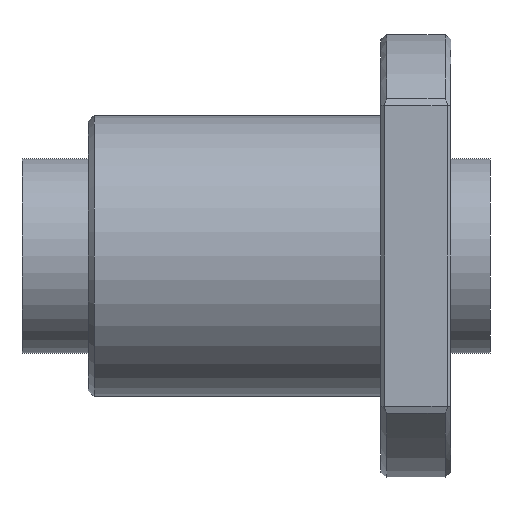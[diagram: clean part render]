
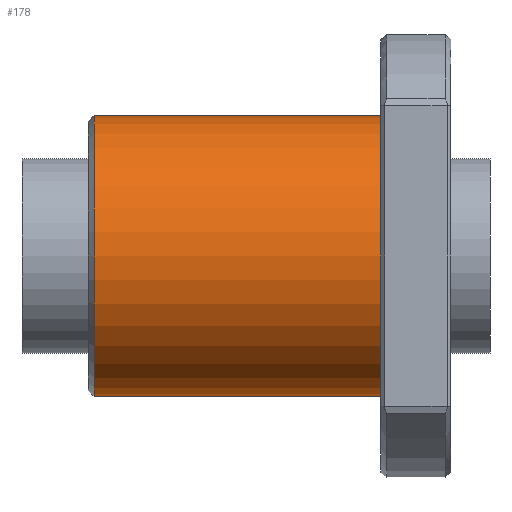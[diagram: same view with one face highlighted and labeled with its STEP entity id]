
A CAD part, left-side view. The second image highlights one B-rep face of the part: STEP entity #178.
In plain terms, the highlighted cylindrical face has radius 36 mm (diameter 72 mm), a full revolution.
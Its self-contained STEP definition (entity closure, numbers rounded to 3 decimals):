
#178=ADVANCED_FACE('',(#256,#257),#224,.T.);
#224=CYLINDRICAL_SURFACE('',#831,36.);
#256=FACE_BOUND('',#340,.T.);
#257=FACE_BOUND('',#341,.T.);
#340=EDGE_LOOP('',(#458));
#341=EDGE_LOOP('',(#459));
#458=ORIENTED_EDGE('',*,*,#697,.T.);
#459=ORIENTED_EDGE('',*,*,#676,.T.);
#605=VERTEX_POINT('',#1171);
#622=VERTEX_POINT('',#1240);
#676=EDGE_CURVE('',#605,#605,#759,.T.);
#697=EDGE_CURVE('',#622,#622,#768,.T.);
#759=CIRCLE('',#814,36.);
#768=CIRCLE('',#830,36.);
#814=AXIS2_PLACEMENT_3D('',#1170,#948,#949);
#830=AXIS2_PLACEMENT_3D('',#1239,#984,#985);
#831=AXIS2_PLACEMENT_3D('',#1241,#986,#987);
#948=DIRECTION('',(0.,1.,0.));
#949=DIRECTION('',(0.,0.,-1.));
#984=DIRECTION('',(0.,-1.,0.));
#985=DIRECTION('',(0.,0.,-1.));
#986=DIRECTION('',(0.,1.,0.));
#987=DIRECTION('',(0.,0.,1.));
#1170=CARTESIAN_POINT('',(0.,18.,0.));
#1171=CARTESIAN_POINT('',(0.,18.,-36.));
#1239=CARTESIAN_POINT('',(0.,91.5,0.));
#1240=CARTESIAN_POINT('',(0.,91.5,-36.));
#1241=CARTESIAN_POINT('',(0.,0.,0.));
